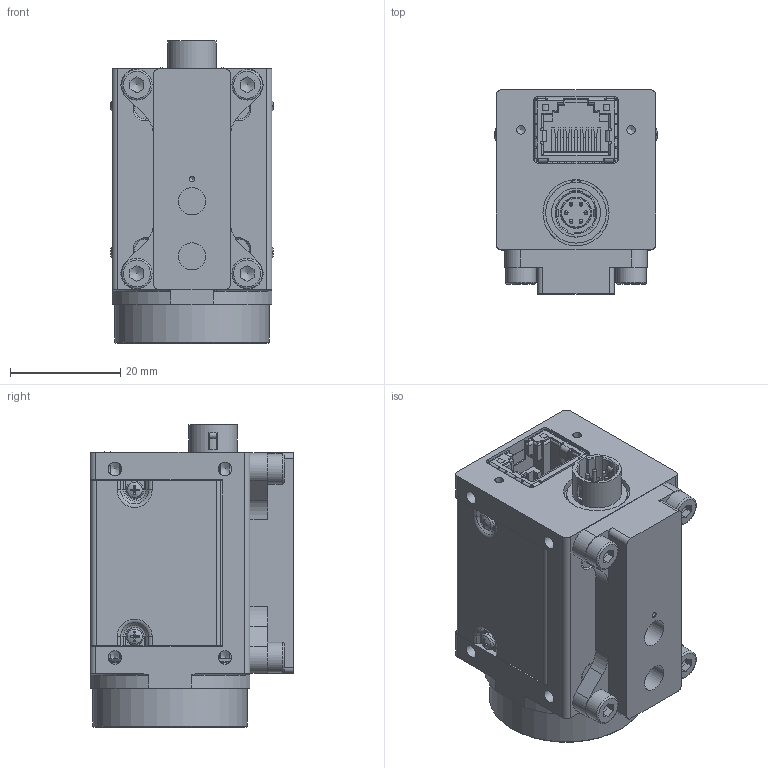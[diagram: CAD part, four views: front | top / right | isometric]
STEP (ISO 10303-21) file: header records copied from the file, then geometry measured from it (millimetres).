
FILE_DESCRIPTION(/* description */ ('ZB FPGA-Cam-RJ45_C-Frontpl-18,4_ER-12,0'),/* implementation_level */ '2;1');
FILE_NAME(/* name */ 'KSM_310-24-04-00-00-a_ZB FPGA-Cam-RJ45_C-Frontpl-18,4_ER-12,0_w.TriA.stp',/* time_stamp */ '2025-10-14T14:39:54+02:00',/* author */ ('khw'),/* organization */ ('TIS/ Germany'),/* preprocessor_version */ 'ST-DEVELOPER v20',/* originating_system */ 'Autodesk Inventor 2025',/* authorisation */ '520025 mm^3');
FILE_SCHEMA (('AUTOMOTIVE_DESIGN { 1 0 10303 214 3 1 1 }'));
Products named in the file (4): KSM_310-24-03-00-00-a; 2-R_310-24-03-00-00-a; 310-24-00-00-03_TripodAdapter.ipt; ISO 4762 - M3 x 6 - 8.8
Assembly tree (6 placements, depth 2):
  KSM_310-24-03-00-00-a
    2-R_310-24-03-00-00-a
    310-24-00-00-03_TripodAdapter.ipt
    ISO 4762 - M3 x 6 - 8.8  x4
Bounding box: 29.57 x 37 x 54.85 mm (x, y, z)
Volume: 17611.4 mm3; surface area: 22368.3 mm2
Topology: 6 solids, 6 shells, 1678 faces, 4698 edges, 3038 vertices
Faces by surface type: plane 944, cylinder 441, cone 165, torus 66, bspline 54, sphere 8
Full cylindrical faces by diameter (mm): 0.7 x6, 0.8 x2, 1 x1, 1.221 x10, 1.567 x4, 2.459 x16, 3 x4, 3.3 x4, 3.5 x4, 3.8 x4, 4.917 x1, 4.978 x1, 5.5 x4, 5.6 x1, 5.7 x1, 6.55 x1, 6.6 x1, 8 x2, 8.85 x1, 11 x1, 12 x1, 20.2 x1, 21.9 x1, 22 x2, 24.536 x1, 25.8 x1, 26 x1, 27 x2, 28 x2, 28.05 x1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
Entity records: 59914 total; most frequent: CARTESIAN_POINT 16074, ORIENTED_EDGE 9104, DIRECTION 8437, EDGE_CURVE 4552, VERTEX_POINT 2966, LINE 2831, VECTOR 2831, AXIS2_PLACEMENT_3D 2803
